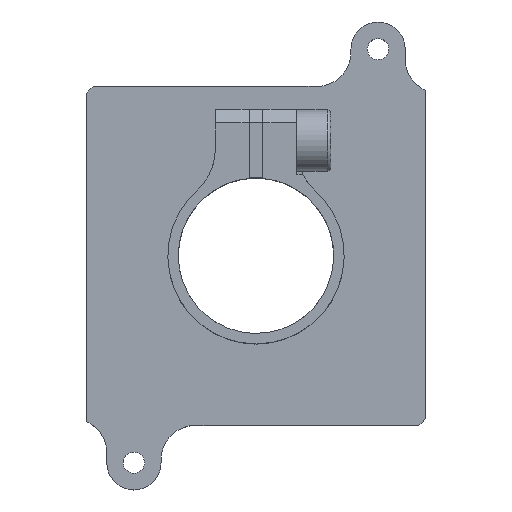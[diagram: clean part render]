
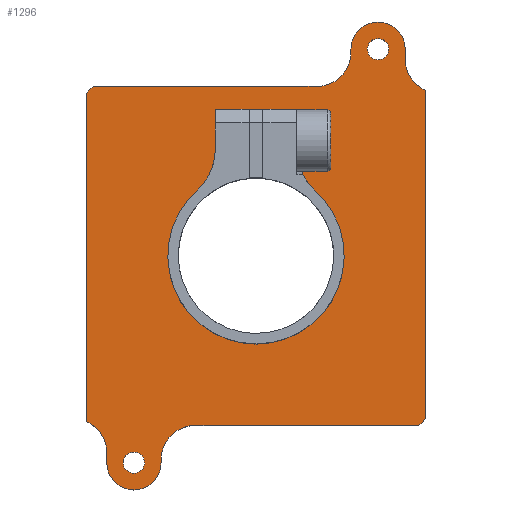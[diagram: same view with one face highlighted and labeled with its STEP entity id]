
A CAD part, top view. The second image highlights one B-rep face of the part: STEP entity #1296.
In plain terms, the highlighted planar face has unit normal (0, 0, 1).
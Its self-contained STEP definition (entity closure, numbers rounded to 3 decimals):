
#50=FACE_BOUND('',#222,.T.);
#51=FACE_BOUND('',#223,.T.);
#52=FACE_BOUND('',#224,.T.);
#84=PLANE('',#1499);
#148=FACE_OUTER_BOUND('',#221,.T.);
#221=EDGE_LOOP('',(#1072,#1073,#1074,#1075,#1076,#1077,#1078,#1079,#1080,
#1081,#1082,#1083,#1084,#1085,#1086,#1087));
#222=EDGE_LOOP('',(#1088,#1089,#1090,#1091,#1092,#1093));
#223=EDGE_LOOP('',(#1094));
#224=EDGE_LOOP('',(#1095));
#268=LINE('',#1985,#386);
#283=LINE('',#2047,#401);
#288=LINE('',#2059,#406);
#310=LINE('',#2134,#428);
#313=LINE('',#2140,#431);
#317=LINE('',#2152,#435);
#321=LINE('',#2164,#439);
#325=LINE('',#2176,#443);
#328=LINE('',#2182,#446);
#331=LINE('',#2188,#449);
#335=LINE('',#2200,#453);
#339=LINE('',#2212,#457);
#343=LINE('',#2222,#461);
#386=VECTOR('',#1587,10.);
#401=VECTOR('',#1626,10.);
#406=VECTOR('',#1641,10.);
#428=VECTOR('',#1719,10.);
#431=VECTOR('',#1724,10.);
#435=VECTOR('',#1736,10.);
#439=VECTOR('',#1748,10.);
#443=VECTOR('',#1760,10.);
#446=VECTOR('',#1765,10.);
#449=VECTOR('',#1770,10.);
#453=VECTOR('',#1782,10.);
#457=VECTOR('',#1794,10.);
#461=VECTOR('',#1806,10.);
#503=CIRCLE('',#1432,4.);
#507=CIRCLE('',#1445,4.);
#508=CIRCLE('',#1447,6.5);
#510=CIRCLE('',#1450,0.784);
#512=CIRCLE('',#1453,0.784);
#522=CIRCLE('',#1475,2.5);
#524=CIRCLE('',#1479,2.);
#526=CIRCLE('',#1483,2.5);
#528=CIRCLE('',#1489,2.5);
#530=CIRCLE('',#1493,2.);
#532=CIRCLE('',#1497,2.5);
#566=VERTEX_POINT('',#1982);
#567=VERTEX_POINT('',#1984);
#573=VERTEX_POINT('',#2013);
#574=VERTEX_POINT('',#2015);
#581=VERTEX_POINT('',#2046);
#584=VERTEX_POINT('',#2061);
#586=VERTEX_POINT('',#2069);
#588=VERTEX_POINT('',#2075);
#607=VERTEX_POINT('',#2131);
#608=VERTEX_POINT('',#2133);
#610=VERTEX_POINT('',#2139);
#612=VERTEX_POINT('',#2145);
#614=VERTEX_POINT('',#2151);
#616=VERTEX_POINT('',#2157);
#618=VERTEX_POINT('',#2163);
#620=VERTEX_POINT('',#2169);
#622=VERTEX_POINT('',#2175);
#624=VERTEX_POINT('',#2181);
#626=VERTEX_POINT('',#2187);
#628=VERTEX_POINT('',#2193);
#630=VERTEX_POINT('',#2199);
#632=VERTEX_POINT('',#2205);
#634=VERTEX_POINT('',#2211);
#636=VERTEX_POINT('',#2217);
#694=EDGE_CURVE('',#567,#566,#268,.T.);
#703=EDGE_CURVE('',#574,#573,#503,.T.);
#717=EDGE_CURVE('',#581,#567,#283,.T.);
#723=EDGE_CURVE('',#573,#581,#288,.T.);
#725=EDGE_CURVE('',#566,#584,#507,.T.);
#726=EDGE_CURVE('',#584,#574,#508,.T.);
#729=EDGE_CURVE('',#586,#586,#510,.T.);
#732=EDGE_CURVE('',#588,#588,#512,.T.);
#759=EDGE_CURVE('',#608,#607,#310,.T.);
#762=EDGE_CURVE('',#610,#608,#313,.T.);
#765=EDGE_CURVE('',#612,#610,#522,.T.);
#768=EDGE_CURVE('',#614,#612,#317,.T.);
#771=EDGE_CURVE('',#616,#614,#524,.T.);
#774=EDGE_CURVE('',#618,#616,#321,.T.);
#777=EDGE_CURVE('',#620,#618,#526,.T.);
#780=EDGE_CURVE('',#622,#620,#325,.T.);
#783=EDGE_CURVE('',#624,#622,#328,.T.);
#786=EDGE_CURVE('',#626,#624,#331,.T.);
#789=EDGE_CURVE('',#628,#626,#528,.T.);
#792=EDGE_CURVE('',#630,#628,#335,.T.);
#795=EDGE_CURVE('',#632,#630,#530,.T.);
#798=EDGE_CURVE('',#634,#632,#339,.T.);
#801=EDGE_CURVE('',#636,#634,#532,.T.);
#804=EDGE_CURVE('',#607,#636,#343,.T.);
#1072=ORIENTED_EDGE('',*,*,#804,.T.);
#1073=ORIENTED_EDGE('',*,*,#801,.T.);
#1074=ORIENTED_EDGE('',*,*,#798,.T.);
#1075=ORIENTED_EDGE('',*,*,#795,.T.);
#1076=ORIENTED_EDGE('',*,*,#792,.T.);
#1077=ORIENTED_EDGE('',*,*,#789,.T.);
#1078=ORIENTED_EDGE('',*,*,#786,.T.);
#1079=ORIENTED_EDGE('',*,*,#783,.T.);
#1080=ORIENTED_EDGE('',*,*,#780,.T.);
#1081=ORIENTED_EDGE('',*,*,#777,.T.);
#1082=ORIENTED_EDGE('',*,*,#774,.T.);
#1083=ORIENTED_EDGE('',*,*,#771,.T.);
#1084=ORIENTED_EDGE('',*,*,#768,.T.);
#1085=ORIENTED_EDGE('',*,*,#765,.T.);
#1086=ORIENTED_EDGE('',*,*,#762,.T.);
#1087=ORIENTED_EDGE('',*,*,#759,.T.);
#1088=ORIENTED_EDGE('',*,*,#703,.T.);
#1089=ORIENTED_EDGE('',*,*,#723,.T.);
#1090=ORIENTED_EDGE('',*,*,#717,.T.);
#1091=ORIENTED_EDGE('',*,*,#694,.T.);
#1092=ORIENTED_EDGE('',*,*,#725,.T.);
#1093=ORIENTED_EDGE('',*,*,#726,.T.);
#1094=ORIENTED_EDGE('',*,*,#729,.T.);
#1095=ORIENTED_EDGE('',*,*,#732,.T.);
#1296=ADVANCED_FACE('',(#148,#50,#51,#52),#84,.T.);
#1432=AXIS2_PLACEMENT_3D('',#2016,#1602,#1603);
#1445=AXIS2_PLACEMENT_3D('',#2063,#1645,#1646);
#1447=AXIS2_PLACEMENT_3D('',#2065,#1649,#1650);
#1450=AXIS2_PLACEMENT_3D('',#2071,#1656,#1657);
#1453=AXIS2_PLACEMENT_3D('',#2077,#1663,#1664);
#1475=AXIS2_PLACEMENT_3D('',#2146,#1730,#1731);
#1479=AXIS2_PLACEMENT_3D('',#2158,#1742,#1743);
#1483=AXIS2_PLACEMENT_3D('',#2170,#1754,#1755);
#1489=AXIS2_PLACEMENT_3D('',#2194,#1776,#1777);
#1493=AXIS2_PLACEMENT_3D('',#2206,#1788,#1789);
#1497=AXIS2_PLACEMENT_3D('',#2218,#1800,#1801);
#1499=AXIS2_PLACEMENT_3D('',#2223,#1807,#1808);
#1587=DIRECTION('',(0.,-1.,0.));
#1602=DIRECTION('center_axis',(0.,0.,1.));
#1603=DIRECTION('ref_axis',(-0.667,0.745,0.));
#1626=DIRECTION('',(1.,0.,0.));
#1641=DIRECTION('',(0.,1.,0.));
#1645=DIRECTION('center_axis',(0.,0.,1.));
#1646=DIRECTION('ref_axis',(1.,0.,0.));
#1649=DIRECTION('center_axis',(0.,0.,-1.));
#1650=DIRECTION('ref_axis',(-0.667,0.745,0.));
#1656=DIRECTION('center_axis',(0.,0.,-1.));
#1657=DIRECTION('ref_axis',(-1.,0.,0.));
#1663=DIRECTION('center_axis',(0.,0.,-1.));
#1664=DIRECTION('ref_axis',(-1.,0.,0.));
#1719=DIRECTION('',(-0.707,-0.707,0.));
#1724=DIRECTION('',(-1.,0.,0.));
#1730=DIRECTION('center_axis',(0.,0.,-1.));
#1731=DIRECTION('ref_axis',(0.,1.,0.));
#1736=DIRECTION('',(0.,-1.,0.));
#1742=DIRECTION('center_axis',(0.,0.,1.));
#1743=DIRECTION('ref_axis',(1.,0.,0.));
#1748=DIRECTION('',(0.,1.,0.));
#1754=DIRECTION('center_axis',(0.,0.,-1.));
#1755=DIRECTION('ref_axis',(1.,0.,0.));
#1760=DIRECTION('',(0.,1.,0.));
#1765=DIRECTION('',(0.707,0.707,0.));
#1770=DIRECTION('',(1.,0.,0.));
#1776=DIRECTION('center_axis',(0.,0.,-1.));
#1777=DIRECTION('ref_axis',(0.,-1.,0.));
#1782=DIRECTION('',(0.,1.,0.));
#1788=DIRECTION('center_axis',(0.,0.,1.));
#1789=DIRECTION('ref_axis',(-1.,0.,0.));
#1794=DIRECTION('',(0.,-1.,0.));
#1800=DIRECTION('center_axis',(0.,0.,-1.));
#1801=DIRECTION('ref_axis',(-1.,0.,0.));
#1806=DIRECTION('',(0.,-1.,0.));
#1807=DIRECTION('center_axis',(0.,0.,1.));
#1808=DIRECTION('ref_axis',(1.,0.,0.));
#1982=CARTESIAN_POINT('',(3.,7.826,4.5));
#1984=CARTESIAN_POINT('',(3.,10.8,4.5));
#1985=CARTESIAN_POINT('',(3.,3.913,4.5));
#2013=CARTESIAN_POINT('',(-3.,7.826,4.5));
#2015=CARTESIAN_POINT('',(-4.333,4.845,4.5));
#2016=CARTESIAN_POINT('Origin',(-7.,7.826,4.5));
#2046=CARTESIAN_POINT('',(-3.,10.8,4.5));
#2047=CARTESIAN_POINT('',(1.5,10.8,4.5));
#2059=CARTESIAN_POINT('',(-3.,5.4,4.5));
#2061=CARTESIAN_POINT('',(4.333,4.845,4.5));
#2063=CARTESIAN_POINT('Origin',(7.,7.826,4.5));
#2065=CARTESIAN_POINT('Origin',(0.,0.,4.5));
#2069=CARTESIAN_POINT('',(9.784,15.25,4.5));
#2071=CARTESIAN_POINT('Origin',(9.,15.25,4.5));
#2075=CARTESIAN_POINT('',(-8.217,-15.25,4.5));
#2077=CARTESIAN_POINT('Origin',(-9.,-15.25,4.5));
#2131=CARTESIAN_POINT('',(-12.5,12.,4.5));
#2133=CARTESIAN_POINT('',(-12.,12.5,4.5));
#2134=CARTESIAN_POINT('',(-12.,12.5,4.5));
#2139=CARTESIAN_POINT('',(4.5,12.5,4.5));
#2140=CARTESIAN_POINT('',(4.5,12.5,4.5));
#2145=CARTESIAN_POINT('',(7.,15.,4.5));
#2146=CARTESIAN_POINT('Origin',(4.5,15.,4.5));
#2151=CARTESIAN_POINT('',(7.,15.25,4.5));
#2152=CARTESIAN_POINT('',(7.,15.25,4.5));
#2157=CARTESIAN_POINT('',(11.,15.25,4.5));
#2158=CARTESIAN_POINT('Origin',(9.,15.25,4.5));
#2163=CARTESIAN_POINT('',(11.,14.5,4.5));
#2164=CARTESIAN_POINT('',(11.,14.5,4.5));
#2169=CARTESIAN_POINT('',(12.5,12.209,4.5));
#2170=CARTESIAN_POINT('Origin',(13.5,14.5,4.5));
#2175=CARTESIAN_POINT('',(12.5,-12.,4.5));
#2176=CARTESIAN_POINT('',(12.5,-12.,4.5));
#2181=CARTESIAN_POINT('',(12.,-12.5,4.5));
#2182=CARTESIAN_POINT('',(12.,-12.5,4.5));
#2187=CARTESIAN_POINT('',(-4.5,-12.5,4.5));
#2188=CARTESIAN_POINT('',(-4.5,-12.5,4.5));
#2193=CARTESIAN_POINT('',(-7.,-15.,4.5));
#2194=CARTESIAN_POINT('Origin',(-4.5,-15.,4.5));
#2199=CARTESIAN_POINT('',(-7.,-15.25,4.5));
#2200=CARTESIAN_POINT('',(-7.,-15.25,4.5));
#2205=CARTESIAN_POINT('',(-11.,-15.25,4.5));
#2206=CARTESIAN_POINT('Origin',(-9.,-15.25,4.5));
#2211=CARTESIAN_POINT('',(-11.,-14.5,4.5));
#2212=CARTESIAN_POINT('',(-11.,-14.5,4.5));
#2217=CARTESIAN_POINT('',(-12.5,-12.209,4.5));
#2218=CARTESIAN_POINT('Origin',(-13.5,-14.5,4.5));
#2222=CARTESIAN_POINT('',(-12.5,12.,4.5));
#2223=CARTESIAN_POINT('Origin',(0.,0.,4.5));
